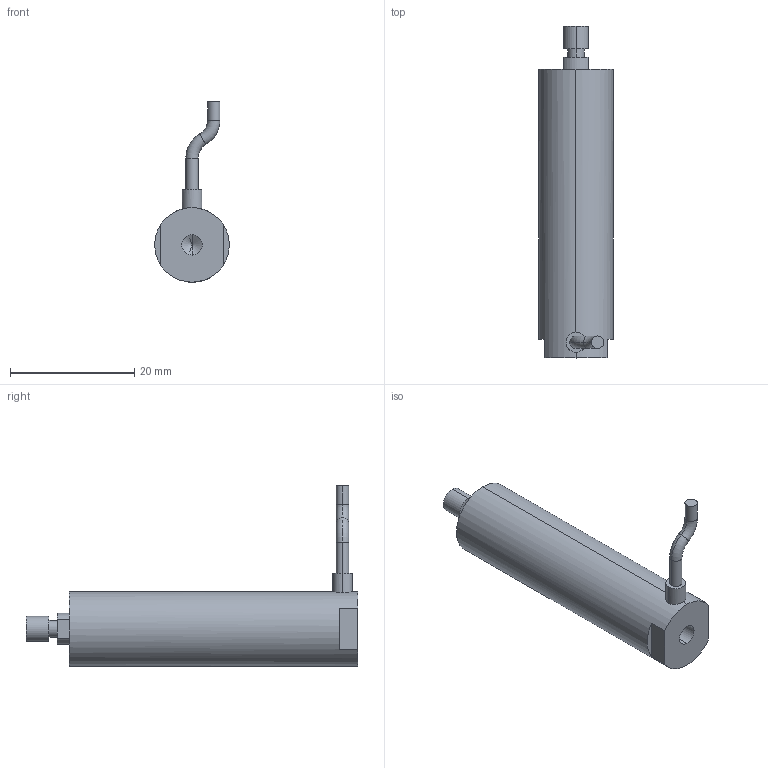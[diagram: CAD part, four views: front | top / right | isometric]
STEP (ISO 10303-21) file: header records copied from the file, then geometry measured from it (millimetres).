
FILE_DESCRIPTION (( 'STEP AP203' ), '1' );
FILE_NAME ('俋蹟恇宒40VS12.STEP', '2020-08-19T06:00:19', ( 'User' ), ( 'china' ), 'SwSTEP 2.0', 'SolidWorks 2016', '' );
FILE_SCHEMA (( 'CONFIG_CONTROL_DESIGN' ));
Length unit declared in the file: millimetre
Products named in the file (1): 俋蹟恇宒40VS12
Bounding box: 12 x 53.5 x 29.08 mm (x, y, z)
Volume: 5339.1 mm3; surface area: 2274.8 mm2
Topology: 1 solids, 1 shells, 932 faces, 2501 edges, 1663 vertices
Faces by surface type: bspline 503, plane 317, cylinder 106, torus 4, cone 2
Entity records: 43019 total; most frequent: CARTESIAN_POINT 24105, ORIENTED_EDGE 4998, EDGE_CURVE 2499, DIRECTION 1983, VERTEX_POINT 1663, B_SPLINE_CURVE_WITH_KNOTS 1654, EDGE_LOOP 1026, ADVANCED_FACE 932
